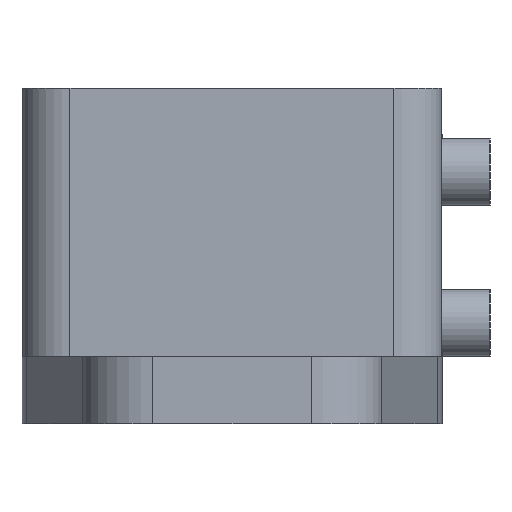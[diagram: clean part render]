
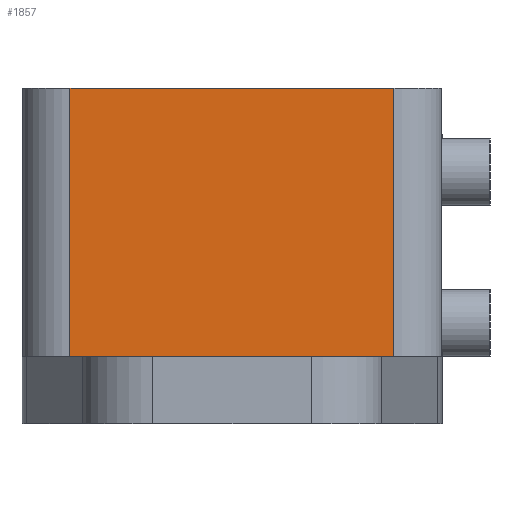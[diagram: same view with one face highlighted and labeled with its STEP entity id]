
A CAD part, left-side view. The second image highlights one B-rep face of the part: STEP entity #1857.
In plain terms, the highlighted planar face has unit normal (-1, 0, 0) as drawn and (0, 1, 0) by its records, which use the part's own axes.
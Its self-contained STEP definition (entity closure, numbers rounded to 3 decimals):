
#1056=CARTESIAN_POINT('',(14.0,-14.8,-6.75));
#1057=VERTEX_POINT('',#1056);
#1065=CARTESIAN_POINT('',(14.0,-14.8,6.75));
#1066=VERTEX_POINT('',#1065);
#1067=CARTESIAN_POINT('',(14.0,-14.8,-6.75));
#1068=DIRECTION('',(0.0,0.0,1.0));
#1069=VECTOR('',#1068,13.5);
#1070=LINE('',#1067,#1069);
#1071=EDGE_CURVE('',#1057,#1066,#1070,.T.);
#1102=CARTESIAN_POINT('',(2.8,-14.8,6.75));
#1103=VERTEX_POINT('',#1102);
#1104=CARTESIAN_POINT('',(14.0,-14.8,6.75));
#1105=DIRECTION('',(-1.0,0.0,0.0));
#1106=VECTOR('',#1105,11.2);
#1107=LINE('',#1104,#1106);
#1108=EDGE_CURVE('',#1066,#1103,#1107,.T.);
#1161=CARTESIAN_POINT('',(2.8,-14.8,-6.75));
#1162=VERTEX_POINT('',#1161);
#1170=CARTESIAN_POINT('',(14.0,-14.8,-6.75));
#1171=DIRECTION('',(-1.0,0.0,0.0));
#1172=VECTOR('',#1171,11.2);
#1173=LINE('',#1170,#1172);
#1174=EDGE_CURVE('',#1057,#1162,#1173,.T.);
#1841=CARTESIAN_POINT('',(2.24,-14.8,-7.425));
#1842=DIRECTION('',(0.0,1.0,0.0));
#1843=DIRECTION('',(0.0,0.0,1.0));
#1844=AXIS2_PLACEMENT_3D('',#1841,#1842,#1843);
#1845=PLANE('',#1844);
#1846=ORIENTED_EDGE('',*,*,#1108,.F.);
#1847=ORIENTED_EDGE('',*,*,#1071,.F.);
#1848=ORIENTED_EDGE('',*,*,#1174,.T.);
#1849=CARTESIAN_POINT('',(2.8,-14.8,6.75));
#1850=DIRECTION('',(0.0,0.0,-1.0));
#1851=VECTOR('',#1850,13.5);
#1852=LINE('',#1849,#1851);
#1853=EDGE_CURVE('',#1103,#1162,#1852,.T.);
#1854=ORIENTED_EDGE('',*,*,#1853,.F.);
#1855=EDGE_LOOP('',(#1846,#1847,#1848,#1854));
#1856=FACE_OUTER_BOUND('',#1855,.T.);
#1857=ADVANCED_FACE('',(#1856),#1845,.T.);
